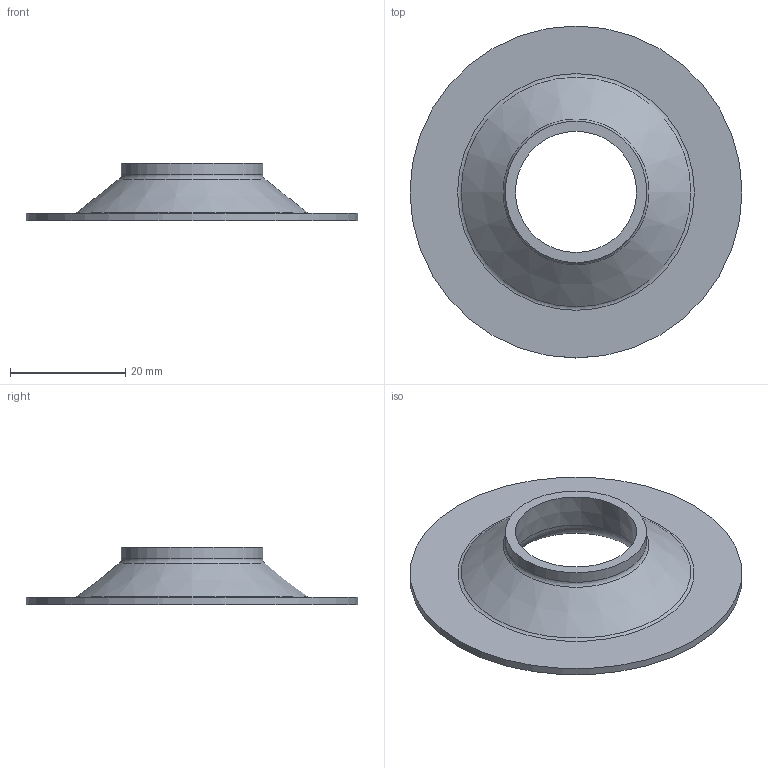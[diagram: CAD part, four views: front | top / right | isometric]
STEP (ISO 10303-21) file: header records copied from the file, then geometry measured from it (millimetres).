
FILE_DESCRIPTION( ('This file contains a STEP AP42 implementation' ,'as created by ZW3D STEP Interface translator.') ,'2;1' );
FILE_NAME( 'KM-21.stp' ,'26 5 8. 75016', (''), ('ZWCAD Software Co.'), 'Version 1.0', 'ZW3D to STEP translator', '' );
FILE_SCHEMA(('AP242_MANAGED_MODEL_BASED_3D_ENGINEERING_MIM_LF { 1 0 10303 442 1 1 4 }'));
Length unit declared in the file: millimetre
Products named in the file (1): 0
Bounding box: 57.5 x 57.5 x 10 mm (x, y, z)
Volume: 5805.4 mm3; surface area: 5673.8 mm2
Topology: 1 solids, 1 shells, 10 faces, 17 edges, 10 vertices
Faces by surface type: plane 3, torus 3, cylinder 2, cone 2
Full cylindrical faces by diameter (mm): 24.5 x1, 57.5 x1
Entity records: 276 total; most frequent: DIRECTION 52, CARTESIAN_POINT 38, ORIENTED_EDGE 34, AXIS2_PLACEMENT_3D 24, EDGE_CURVE 17, CIRCLE 13, EDGE_LOOP 13, VERTEX_POINT 10
